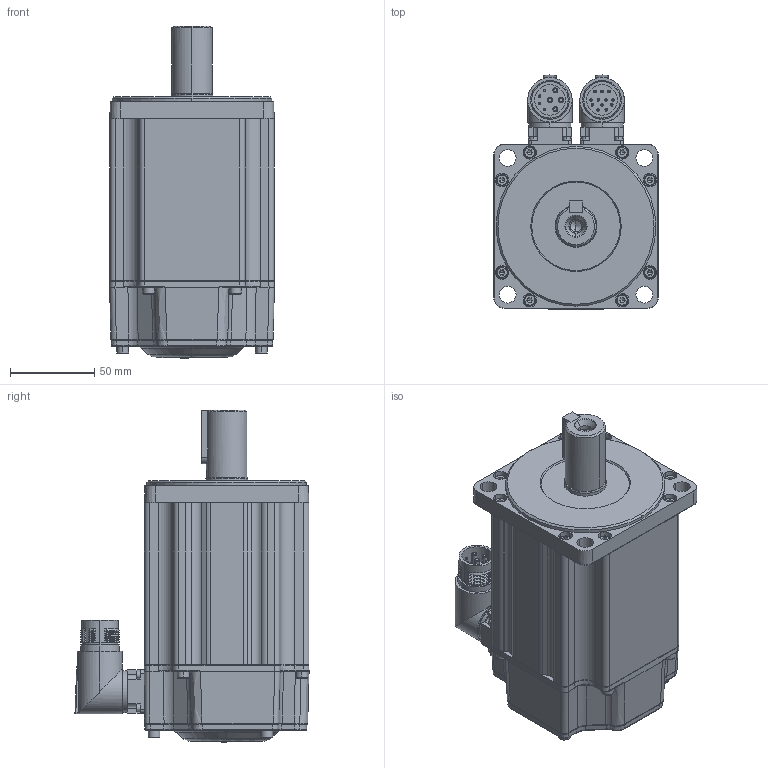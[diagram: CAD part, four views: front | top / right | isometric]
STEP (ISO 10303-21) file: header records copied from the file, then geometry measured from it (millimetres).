
FILE_DESCRIPTION (( 'STEP AP203' ), '1' );
FILE_NAME ('MC20-100-3L30-N152-0¡õPK-NNNN.STEP', '2025-05-04T13:27:12', ( '' ), ( '' ), 'SwSTEP 2.0', 'SolidWorks 2014', '' );
FILE_SCHEMA (( 'CONFIG_CONTROL_DESIGN' ));
Length unit declared in the file: millimetre
Products named in the file (1): MC20-100-3L30-N152-0¡õPK-NNNN
Bounding box: 98.04 x 139.27 x 197.49 mm (x, y, z)
Volume: 1442399.9 mm3; surface area: 191777.5 mm2
Topology: 32 solids, 32 shells, 2072 faces, 4810 edges, 2855 vertices
Faces by surface type: plane 768, cylinder 544, cone 362, bspline 211, torus 182, sphere 5
Entity records: 64693 total; most frequent: CARTESIAN_POINT 18778, DIRECTION 9678, ORIENTED_EDGE 9432, EDGE_CURVE 4716, AXIS2_PLACEMENT_3D 3775, VERTEX_POINT 2855, EDGE_LOOP 2291, LINE 2128
